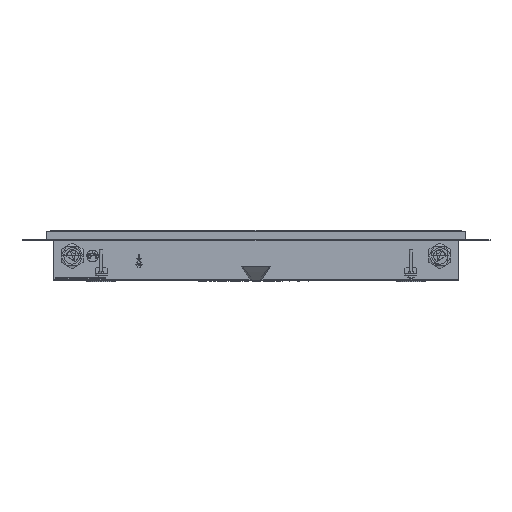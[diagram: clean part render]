
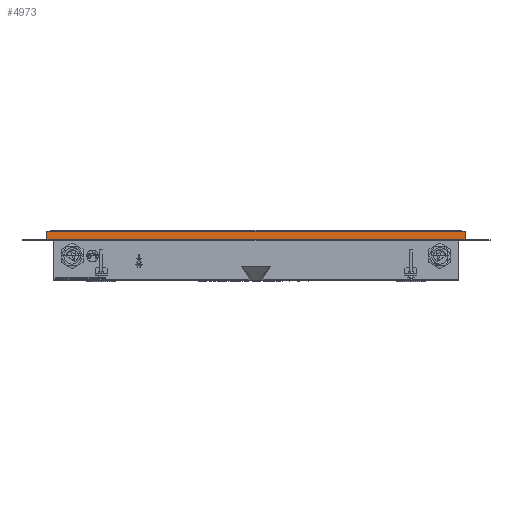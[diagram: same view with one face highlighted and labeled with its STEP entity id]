
A CAD part, front view. The second image highlights one B-rep face of the part: STEP entity #4973.
In plain terms, the highlighted free-form (B-spline) face has degree [1, 1] with [2, 2] control points.
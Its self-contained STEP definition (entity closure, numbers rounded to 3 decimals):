
#3053=(
BOUNDED_SURFACE()
B_SPLINE_SURFACE(2,1,((#85425,#85426),(#85427,#85428),(#85429,#85430),(#85431,
#85432),(#85433,#85434),(#85435,#85436),(#85437,#85438),(#85439,#85440),
(#85441,#85442)),.UNSPECIFIED.,.T.,.F.,.F.)
B_SPLINE_SURFACE_WITH_KNOTS((3,2,2,2,3),(2,2),(0.,1.571,3.142,
4.712,6.283),(0.,863.659),.UNSPECIFIED.)
GEOMETRIC_REPRESENTATION_ITEM()
RATIONAL_B_SPLINE_SURFACE(((1.,1.),(0.707,0.707),
(1.,1.),(0.707,0.707),(1.,1.),(0.707,
0.707),(1.,1.),(0.707,0.707),(1.,1.)))
REPRESENTATION_ITEM('')
SURFACE()
);
#3058=(
BOUNDED_SURFACE()
B_SPLINE_SURFACE(1,2,((#85515,#85516,#85517,#85518,#85519,#85520,#85521,
#85522,#85523),(#85524,#85525,#85526,#85527,#85528,#85529,#85530,#85531,
#85532)),.UNSPECIFIED.,.F.,.F.,.F.)
B_SPLINE_SURFACE_WITH_KNOTS((2,2),(3,2,2,2,3),(0.,865.099),(0.,1.571,
3.142,4.712,6.283),.UNSPECIFIED.)
GEOMETRIC_REPRESENTATION_ITEM()
RATIONAL_B_SPLINE_SURFACE(((1.,0.707,1.,0.707,1.,
0.707,1.,0.707,1.),(1.,0.707,1.,0.707,
1.,0.707,1.,0.707,1.)))
REPRESENTATION_ITEM('')
SURFACE()
);
#4973=ADVANCED_FACE('',(#7189),#51618,.T.);
#7189=FACE_OUTER_BOUND('',#9068,.T.);
#9068=EDGE_LOOP('',(#13094,#13095,#13096,#13097));
#13094=ORIENTED_EDGE('',*,*,#44816,.T.);
#13095=ORIENTED_EDGE('',*,*,#44817,.T.);
#13096=ORIENTED_EDGE('',*,*,#44818,.T.);
#13097=ORIENTED_EDGE('',*,*,#44814,.F.);
#22373=PCURVE('',#51617,#31655);
#22376=PCURVE('',#51618,#31658);
#22377=PCURVE('',#51618,#31659);
#22378=PCURVE('',#51618,#31660);
#22379=PCURVE('',#51618,#31661);
#22514=PCURVE('',#3053,#31796);
#22533=PCURVE('',#3058,#31815);
#22890=PCURVE('',#51665,#32172);
#31655=DEFINITIONAL_REPRESENTATION('',(#55904),#194188);
#31658=DEFINITIONAL_REPRESENTATION('',(#55909),#194188);
#31659=DEFINITIONAL_REPRESENTATION('',(#55911),#194188);
#31660=DEFINITIONAL_REPRESENTATION('',(#55913),#194188);
#31661=DEFINITIONAL_REPRESENTATION('',(#55914),#194188);
#31796=DEFINITIONAL_REPRESENTATION('',(#56057),#194188);
#31815=DEFINITIONAL_REPRESENTATION('',(#56076),#194188);
#32172=DEFINITIONAL_REPRESENTATION('',(#56504),#194188);
#39996=SURFACE_CURVE('',#55903,(#22373,#22379),.PCURVE_S1.);
#39998=SURFACE_CURVE('',#55908,(#22376,#22533),.PCURVE_S1.);
#39999=SURFACE_CURVE('',#55910,(#22377,#22890),.PCURVE_S1.);
#40000=SURFACE_CURVE('',#55912,(#22378,#22514),.PCURVE_S1.);
#44814=EDGE_CURVE('',#49225,#49226,#39996,.T.);
#44816=EDGE_CURVE('',#49225,#49227,#39998,.T.);
#44817=EDGE_CURVE('',#49227,#49228,#39999,.T.);
#44818=EDGE_CURVE('',#49228,#49226,#40000,.T.);
#49225=VERTEX_POINT('',#88930);
#49226=VERTEX_POINT('',#88931);
#49227=VERTEX_POINT('',#88932);
#49228=VERTEX_POINT('',#88933);
#51617=B_SPLINE_SURFACE_WITH_KNOTS('',1,1,((#85079,#85080),(#85081,#85082)),
 .UNSPECIFIED.,.F.,.F.,.F.,(2,2),(2,2),(-18.44,-0.06),(-131.78,
15.48),.UNSPECIFIED.);
#51618=B_SPLINE_SURFACE_WITH_KNOTS('',1,1,((#85083,#85084),(#85085,#85086)),
 .UNSPECIFIED.,.F.,.F.,.F.,(2,2),(2,2),(-18.44,-0.06),(-788.48,
75.18),.UNSPECIFIED.);
#51665=B_SPLINE_SURFACE_WITH_KNOTS('',1,1,((#86217,#86218),(#86219,#86220)),
 .UNSPECIFIED.,.F.,.F.,.F.,(2,2),(2,2),(0.06,18.44),(-131.78,
15.48),.UNSPECIFIED.);
#55903=B_SPLINE_CURVE_WITH_KNOTS('',1,(#90741,#90742),.UNSPECIFIED.,.F.,
 .F.,(2,2),(0.,14.3),.UNSPECIFIED.);
#55904=B_SPLINE_CURVE_WITH_KNOTS('',1,(#90743,#90744),.UNSPECIFIED.,.F.,
 .F.,(2,2),(0.,14.3),.UNSPECIFIED.);
#55908=B_SPLINE_CURVE_WITH_KNOTS('',1,(#90751,#90752),.UNSPECIFIED.,.F.,
 .F.,(2,2),(0.,718.7),.UNSPECIFIED.);
#55909=B_SPLINE_CURVE_WITH_KNOTS('',1,(#90753,#90754),.UNSPECIFIED.,.F.,
 .F.,(2,2),(0.,718.7),.UNSPECIFIED.);
#55910=B_SPLINE_CURVE_WITH_KNOTS('',1,(#90755,#90756),.UNSPECIFIED.,.F.,
 .F.,(2,2),(0.,14.3),.UNSPECIFIED.);
#55911=B_SPLINE_CURVE_WITH_KNOTS('',1,(#90757,#90758),.UNSPECIFIED.,.F.,
 .F.,(2,2),(0.,14.3),.UNSPECIFIED.);
#55912=B_SPLINE_CURVE_WITH_KNOTS('',1,(#90759,#90760),.UNSPECIFIED.,.F.,
 .F.,(2,2),(0.,718.7),.UNSPECIFIED.);
#55913=B_SPLINE_CURVE_WITH_KNOTS('',1,(#90761,#90762),.UNSPECIFIED.,.F.,
 .F.,(2,2),(0.,718.7),.UNSPECIFIED.);
#55914=B_SPLINE_CURVE_WITH_KNOTS('',1,(#90763,#90764),.UNSPECIFIED.,.F.,
 .F.,(2,2),(0.,14.3),.UNSPECIFIED.);
#56057=B_SPLINE_CURVE_WITH_KNOTS('',1,(#91377,#91378),.UNSPECIFIED.,.F.,
 .F.,(2,2),(0.,718.7),.UNSPECIFIED.);
#56076=B_SPLINE_CURVE_WITH_KNOTS('',1,(#91479,#91480),.UNSPECIFIED.,.F.,
 .F.,(2,2),(0.,718.7),.UNSPECIFIED.);
#56504=B_SPLINE_CURVE_WITH_KNOTS('',1,(#92992,#92993),.UNSPECIFIED.,.F.,
 .F.,(2,2),(0.,14.3),.UNSPECIFIED.);
#85079=CARTESIAN_POINT('',(44.248,61.372,7.042));
#85080=CARTESIAN_POINT('',(44.248,76.098,7.042));
#85081=CARTESIAN_POINT('',(44.248,61.372,8.88));
#85082=CARTESIAN_POINT('',(44.248,76.098,8.88));
#85083=CARTESIAN_POINT('',(123.366,62.65,7.042));
#85084=CARTESIAN_POINT('',(37.,62.65,7.042));
#85085=CARTESIAN_POINT('',(123.366,62.65,8.88));
#85086=CARTESIAN_POINT('',(37.,62.65,8.88));
#85425=CARTESIAN_POINT('',(37.,62.86,8.466));
#85426=CARTESIAN_POINT('',(123.366,62.86,8.466));
#85427=CARTESIAN_POINT('',(37.,63.07,8.466));
#85428=CARTESIAN_POINT('',(123.366,63.07,8.466));
#85429=CARTESIAN_POINT('',(37.,63.07,8.676));
#85430=CARTESIAN_POINT('',(123.366,63.07,8.676));
#85431=CARTESIAN_POINT('',(37.,63.07,8.886));
#85432=CARTESIAN_POINT('',(123.366,63.07,8.886));
#85433=CARTESIAN_POINT('',(37.,62.86,8.886));
#85434=CARTESIAN_POINT('',(123.366,62.86,8.886));
#85435=CARTESIAN_POINT('',(37.,62.65,8.886));
#85436=CARTESIAN_POINT('',(123.366,62.65,8.886));
#85437=CARTESIAN_POINT('',(37.,62.65,8.676));
#85438=CARTESIAN_POINT('',(123.366,62.65,8.676));
#85439=CARTESIAN_POINT('',(37.,62.65,8.466));
#85440=CARTESIAN_POINT('',(123.366,62.65,8.466));
#85441=CARTESIAN_POINT('',(37.,62.86,8.466));
#85442=CARTESIAN_POINT('',(123.366,62.86,8.466));
#85515=CARTESIAN_POINT('',(123.438,62.53,7.246));
#85516=CARTESIAN_POINT('',(123.438,62.53,7.306));
#85517=CARTESIAN_POINT('',(123.438,62.59,7.306));
#85518=CARTESIAN_POINT('',(123.438,62.65,7.306));
#85519=CARTESIAN_POINT('',(123.438,62.65,7.246));
#85520=CARTESIAN_POINT('',(123.438,62.65,7.186));
#85521=CARTESIAN_POINT('',(123.438,62.59,7.186));
#85522=CARTESIAN_POINT('',(123.438,62.53,7.186));
#85523=CARTESIAN_POINT('',(123.438,62.53,7.246));
#85524=CARTESIAN_POINT('',(36.928,62.53,7.246));
#85525=CARTESIAN_POINT('',(36.928,62.53,7.306));
#85526=CARTESIAN_POINT('',(36.928,62.59,7.306));
#85527=CARTESIAN_POINT('',(36.928,62.65,7.306));
#85528=CARTESIAN_POINT('',(36.928,62.65,7.246));
#85529=CARTESIAN_POINT('',(36.928,62.65,7.186));
#85530=CARTESIAN_POINT('',(36.928,62.59,7.186));
#85531=CARTESIAN_POINT('',(36.928,62.53,7.186));
#85532=CARTESIAN_POINT('',(36.928,62.53,7.246));
#86217=CARTESIAN_POINT('',(116.118,61.372,8.88));
#86218=CARTESIAN_POINT('',(116.118,76.098,8.88));
#86219=CARTESIAN_POINT('',(116.118,61.372,7.042));
#86220=CARTESIAN_POINT('',(116.118,76.098,7.042));
#88930=CARTESIAN_POINT('',(44.248,62.65,7.246));
#88931=CARTESIAN_POINT('',(44.248,62.65,8.676));
#88932=CARTESIAN_POINT('',(116.118,62.65,7.246));
#88933=CARTESIAN_POINT('',(116.118,62.65,8.676));
#90741=CARTESIAN_POINT('',(44.248,62.65,7.246));
#90742=CARTESIAN_POINT('',(44.248,62.65,8.676));
#90743=CARTESIAN_POINT('',(-16.4,-119.));
#90744=CARTESIAN_POINT('',(-2.1,-119.));
#90751=CARTESIAN_POINT('',(44.248,62.65,7.246));
#90752=CARTESIAN_POINT('',(116.118,62.65,7.246));
#90753=CARTESIAN_POINT('',(-16.4,2.7));
#90754=CARTESIAN_POINT('',(-16.4,-716.));
#90755=CARTESIAN_POINT('',(116.118,62.65,7.246));
#90756=CARTESIAN_POINT('',(116.118,62.65,8.676));
#90757=CARTESIAN_POINT('',(-16.4,-716.));
#90758=CARTESIAN_POINT('',(-2.1,-716.));
#90759=CARTESIAN_POINT('',(116.118,62.65,8.676));
#90760=CARTESIAN_POINT('',(44.248,62.65,8.676));
#90761=CARTESIAN_POINT('',(-2.1,-716.));
#90762=CARTESIAN_POINT('',(-2.1,2.7));
#90763=CARTESIAN_POINT('',(-16.4,2.7));
#90764=CARTESIAN_POINT('',(-2.1,2.7));
#91377=CARTESIAN_POINT('',(4.712,791.18));
#91378=CARTESIAN_POINT('',(4.712,72.48));
#91479=CARTESIAN_POINT('',(791.9,3.142));
#91480=CARTESIAN_POINT('',(73.2,3.142));
#92992=CARTESIAN_POINT('',(16.4,-119.));
#92993=CARTESIAN_POINT('',(2.1,-119.));
#194188=(
GEOMETRIC_REPRESENTATION_CONTEXT(2)
PARAMETRIC_REPRESENTATION_CONTEXT()
REPRESENTATION_CONTEXT('pspace','')
);
